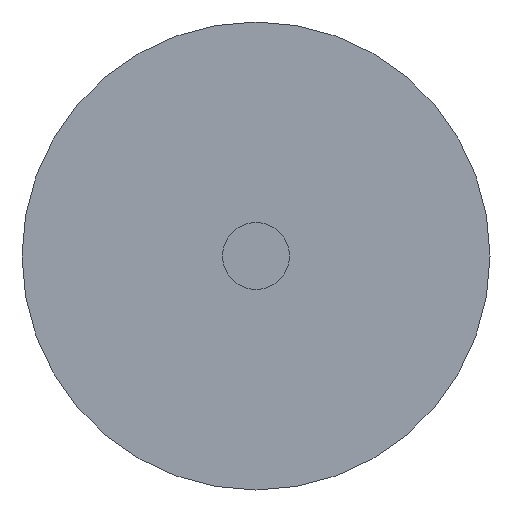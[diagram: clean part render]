
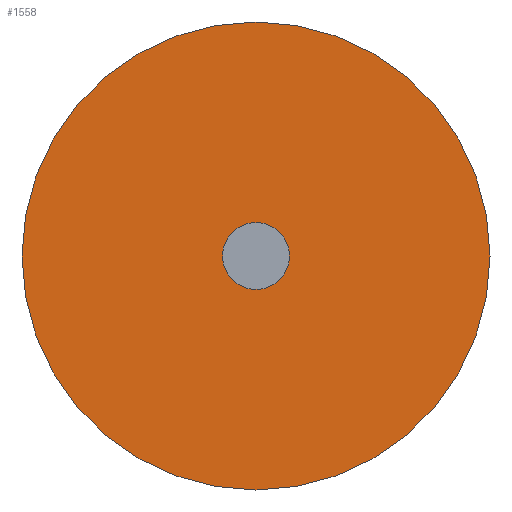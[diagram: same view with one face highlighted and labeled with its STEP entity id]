
A CAD part, left-side view. The second image highlights one B-rep face of the part: STEP entity #1558.
In plain terms, the highlighted planar face has unit normal (-1, 0, 0).
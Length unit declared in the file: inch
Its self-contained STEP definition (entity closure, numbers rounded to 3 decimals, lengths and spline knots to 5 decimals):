
#4 = DIRECTION ( 'NONE',  ( -1., 0., 0. ) ) ;
#99 = DIRECTION ( 'NONE',  ( 0., 0., 1. ) ) ;
#145 = DIRECTION ( 'NONE',  ( 0., 0., 1. ) ) ;
#172 = VERTEX_POINT ( 'NONE', #1213 ) ;
#180 = AXIS2_PLACEMENT_3D ( 'NONE', #708, #1202, #99 ) ;
#182 = AXIS2_PLACEMENT_3D ( 'NONE', #395, #873, #1365 ) ;
#235 = EDGE_CURVE ( 'NONE', #172, #837, #991, .T. ) ;
#277 = AXIS2_PLACEMENT_3D ( 'NONE', #886, #1382, #287 ) ;
#287 = DIRECTION ( 'NONE',  ( 0., 0., -1. ) ) ;
#395 = CARTESIAN_POINT ( 'NONE',  ( 0., 0., 0. ) ) ;
#409 = PLANE ( 'NONE',  #277 ) ;
#506 = DIRECTION ( 'NONE',  ( 0., 0., 1. ) ) ;
#514 = ORIENTED_EDGE ( 'NONE', *, *, #235, .T. ) ;
#582 = ORIENTED_EDGE ( 'NONE', *, *, #898, .T. ) ;
#670 = VERTEX_POINT ( 'NONE', #1406 ) ;
#680 = CARTESIAN_POINT ( 'NONE',  ( 0., 0., 0.0225 ) ) ;
#687 = AXIS2_PLACEMENT_3D ( 'NONE', #1115, #4, #506 ) ;
#697 = VERTEX_POINT ( 'NONE', #680 ) ;
#708 = CARTESIAN_POINT ( 'NONE',  ( 0., 0., 0. ) ) ;
#750 = CARTESIAN_POINT ( 'NONE',  ( 0., 0., 0. ) ) ;
#835 = EDGE_CURVE ( 'NONE', #670, #697, #1448, .T. ) ;
#837 = VERTEX_POINT ( 'NONE', #988 ) ;
#855 = CIRCLE ( 'NONE', #180, 0.0225 ) ;
#873 = DIRECTION ( 'NONE',  ( -1., 0., 0. ) ) ;
#886 = CARTESIAN_POINT ( 'NONE',  ( 0., 0., 0. ) ) ;
#898 = EDGE_CURVE ( 'NONE', #837, #172, #1059, .T. ) ;
#988 = CARTESIAN_POINT ( 'NONE',  ( 0., 0., -0.15727 ) ) ;
#991 = CIRCLE ( 'NONE', #182, 0.15727 ) ;
#1011 = FACE_BOUND ( 'NONE', #1173, .T. ) ;
#1059 = CIRCLE ( 'NONE', #1385, 0.15727 ) ;
#1115 = CARTESIAN_POINT ( 'NONE',  ( 0., 0., 0. ) ) ;
#1168 = EDGE_LOOP ( 'NONE', ( #514, #582 ) ) ;
#1173 = EDGE_LOOP ( 'NONE', ( #1400, #1582 ) ) ;
#1202 = DIRECTION ( 'NONE',  ( -1., 0., 0. ) ) ;
#1213 = CARTESIAN_POINT ( 'NONE',  ( 0., 0., 0.15727 ) ) ;
#1224 = EDGE_CURVE ( 'NONE', #697, #670, #855, .T. ) ;
#1241 = DIRECTION ( 'NONE',  ( -1., 0., 0. ) ) ;
#1365 = DIRECTION ( 'NONE',  ( 0., 0., 1. ) ) ;
#1382 = DIRECTION ( 'NONE',  ( 1., 0., 0. ) ) ;
#1385 = AXIS2_PLACEMENT_3D ( 'NONE', #750, #1241, #145 ) ;
#1400 = ORIENTED_EDGE ( 'NONE', *, *, #1224, .F. ) ;
#1406 = CARTESIAN_POINT ( 'NONE',  ( 0., 0., -0.0225 ) ) ;
#1448 = CIRCLE ( 'NONE', #687, 0.0225 ) ;
#1503 = FACE_OUTER_BOUND ( 'NONE', #1168, .T. ) ;
#1558 = ADVANCED_FACE ( 'NONE', ( #1011, #1503 ), #409, .F. ) ;
#1582 = ORIENTED_EDGE ( 'NONE', *, *, #835, .F. ) ;
